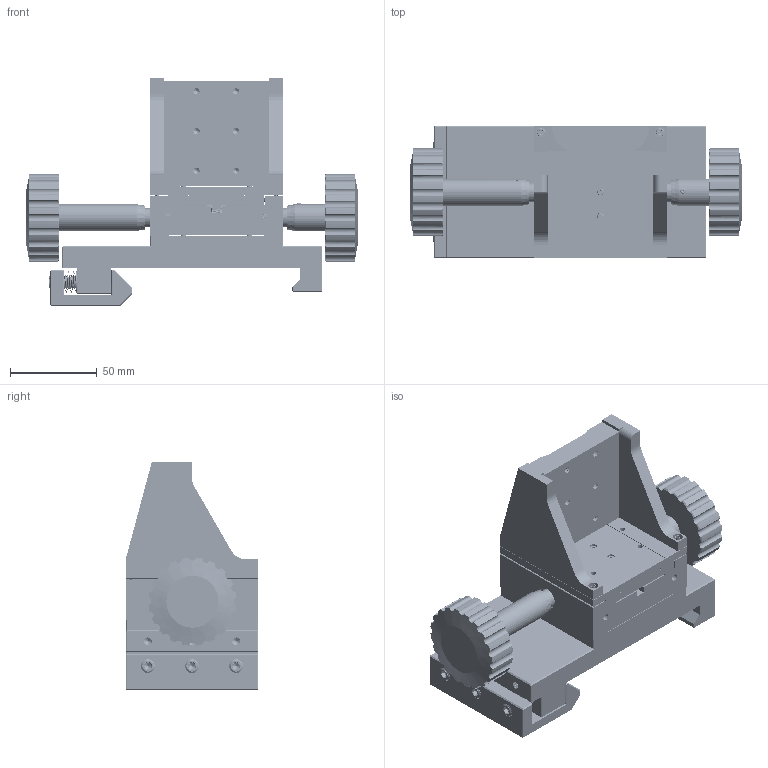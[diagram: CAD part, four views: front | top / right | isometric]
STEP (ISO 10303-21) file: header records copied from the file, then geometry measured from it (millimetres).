
FILE_DESCRIPTION((''),'2;1');
FILE_NAME('OPH95-LM2_ASM','2024-03-05T17:08:33',('R&D'),(''),'CREO PARAMETRIC BY PTC INC, 2021063','CREO PARAMETRIC BY PTC INC, 2021063','');
FILE_SCHEMA(('CONFIG_CONTROL_DESIGN'));
Products named in the file (32): OPH95-LM2-A11; OPH95-LM2-A13; M1_5X5_HS; OPH95-LM2-A2; WASTER_5_3X11X1; OPH95-LM2-A3; OPH95-LM2-A4; AXLE_3X6; OPH95-LM2-A12; OPH95-LM2-A9; OPH95-LM2-A6; OPH95-LM2-A7; M3X4_HS; OPH95-LM2-A5; OPH95-LM2-A1; WASTER_9X12X7; OPH95-LM2-A22; M3X6_HS2; OPH95-LM2-A8; M2X6_HM; OPH95-LM2-A10; M3X6_PM; WASTER_5_3X11_0_5_T; M3X6_HM; M3X12_HM; HELICAL_LEFT_GEAR; HELICAL_LEFT_GEAR-2; ISO14579-M3X10-8_8; ISO14579-M3X12-8_8; OPH95-LM2-A20; OPH95-LM2-A21; OPH95-LM2_ASM
Assembly tree (58 placements, depth 2):
  OPH95-LM2_ASM
    OPH95-LM2-A11
    OPH95-LM2-A13
    M1_5X5_HS
    OPH95-LM2-A2
    WASTER_5_3X11X1  x2
    OPH95-LM2-A3
    OPH95-LM2-A4
    AXLE_3X6  x6
    OPH95-LM2-A12
    OPH95-LM2-A9
    OPH95-LM2-A6
    OPH95-LM2-A7
    M3X4_HS  x4
    OPH95-LM2-A5
    OPH95-LM2-A1
    WASTER_9X12X7  x3
    OPH95-LM2-A22  x3
    M3X6_HS2  x4
    OPH95-LM2-A8
    M2X6_HM  x3
    OPH95-LM2-A10
    M3X6_PM
    WASTER_5_3X11_0_5_T  x2
    M3X6_HM  x4
    M3X12_HM  x2
    HELICAL_LEFT_GEAR
    HELICAL_LEFT_GEAR-2
    ISO14579-M3X10-8_8  x2
    ISO14579-M3X12-8_8  x4
    OPH95-LM2-A20
    OPH95-LM2-A21
Bounding box: 191.05 x 76.2 x 131.32 mm (x, y, z)
Volume: 572618.4 mm3; surface area: 170782.4 mm2
Topology: 53 solids, 74 shells, 5160 faces, 14046 edges, 8987 vertices
Faces by surface type: cylinder 3026, plane 749, cone 703, bspline 642, torus 32, extrusion 8
Entity records: 268898 total; most frequent: CARTESIAN_POINT 187367, ORIENTED_EDGE 19574, DIRECTION 12349, EDGE_CURVE 9868, VERTEX_POINT 6449, B_SPLINE_CURVE_WITH_KNOTS 4920, AXIS2_PLACEMENT_3D 4359, EDGE_LOOP 3809
